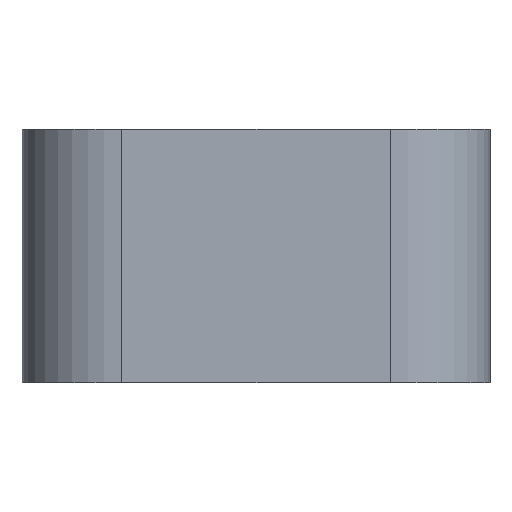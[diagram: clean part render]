
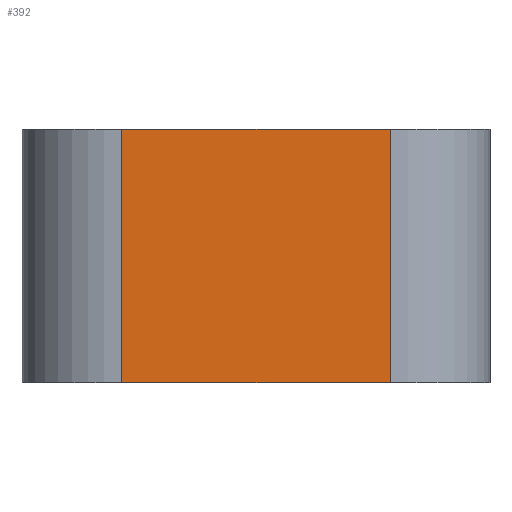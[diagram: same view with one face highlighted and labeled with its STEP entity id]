
A CAD part, front view. The second image highlights one B-rep face of the part: STEP entity #392.
In plain terms, the highlighted planar face has unit normal (0, -1, 0).
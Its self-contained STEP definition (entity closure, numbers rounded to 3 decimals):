
#32 = LINE ( 'NONE', #367, #704 ) ;
#40 = EDGE_CURVE ( 'NONE', #561, #724, #422, .T. ) ;
#68 = EDGE_CURVE ( 'NONE', #653, #724, #612, .T. ) ;
#80 = CARTESIAN_POINT ( 'NONE',  ( -14.8, -255.588, 21.927 ) ) ;
#91 = DIRECTION ( 'NONE',  ( 1., 0., 0. ) ) ;
#104 = EDGE_CURVE ( 'NONE', #448, #653, #652, .T. ) ;
#120 = ORIENTED_EDGE ( 'NONE', *, *, #104, .T. ) ;
#160 = PLANE ( 'NONE',  #549 ) ;
#188 = DIRECTION ( 'NONE',  ( 0., 0., -1. ) ) ;
#251 = CARTESIAN_POINT ( 'NONE',  ( -14.8, -255.588, 0. ) ) ;
#282 = CARTESIAN_POINT ( 'NONE',  ( -11.3, -255.588, 21.927 ) ) ;
#300 = EDGE_CURVE ( 'NONE', #448, #561, #32, .T. ) ;
#346 = FACE_OUTER_BOUND ( 'NONE', #541, .T. ) ;
#367 = CARTESIAN_POINT ( 'NONE',  ( -14.8, -255.588, 3.3 ) ) ;
#377 = DIRECTION ( 'NONE',  ( 0., 1., 0. ) ) ;
#379 = CARTESIAN_POINT ( 'NONE',  ( -11.3, -255.588, 3.3 ) ) ;
#392 = ADVANCED_FACE ( 'NONE', ( #346 ), #160, .F. ) ;
#415 = ORIENTED_EDGE ( 'NONE', *, *, #300, .F. ) ;
#422 = LINE ( 'NONE', #282, #757 ) ;
#448 = VERTEX_POINT ( 'NONE', #461 ) ;
#458 = VECTOR ( 'NONE', #188, 1000. ) ;
#461 = CARTESIAN_POINT ( 'NONE',  ( -14.8, -255.588, 3.3 ) ) ;
#468 = CARTESIAN_POINT ( 'NONE',  ( -14.8, -255.588, 0. ) ) ;
#541 = EDGE_LOOP ( 'NONE', ( #415, #120, #618, #808 ) ) ;
#549 = AXIS2_PLACEMENT_3D ( 'NONE', #718, #377, #655 ) ;
#561 = VERTEX_POINT ( 'NONE', #379 ) ;
#612 = LINE ( 'NONE', #251, #791 ) ;
#618 = ORIENTED_EDGE ( 'NONE', *, *, #68, .T. ) ;
#621 = CARTESIAN_POINT ( 'NONE',  ( -11.3, -255.588, 0. ) ) ;
#627 = DIRECTION ( 'NONE',  ( 1., 0., 0. ) ) ;
#652 = LINE ( 'NONE', #80, #458 ) ;
#653 = VERTEX_POINT ( 'NONE', #468 ) ;
#655 = DIRECTION ( 'NONE',  ( 0., 0., 1. ) ) ;
#704 = VECTOR ( 'NONE', #91, 1000. ) ;
#718 = CARTESIAN_POINT ( 'NONE',  ( -14.8, -255.588, 21.927 ) ) ;
#724 = VERTEX_POINT ( 'NONE', #621 ) ;
#757 = VECTOR ( 'NONE', #831, 1000. ) ;
#791 = VECTOR ( 'NONE', #627, 1000. ) ;
#808 = ORIENTED_EDGE ( 'NONE', *, *, #40, .F. ) ;
#831 = DIRECTION ( 'NONE',  ( 0., 0., -1. ) ) ;
